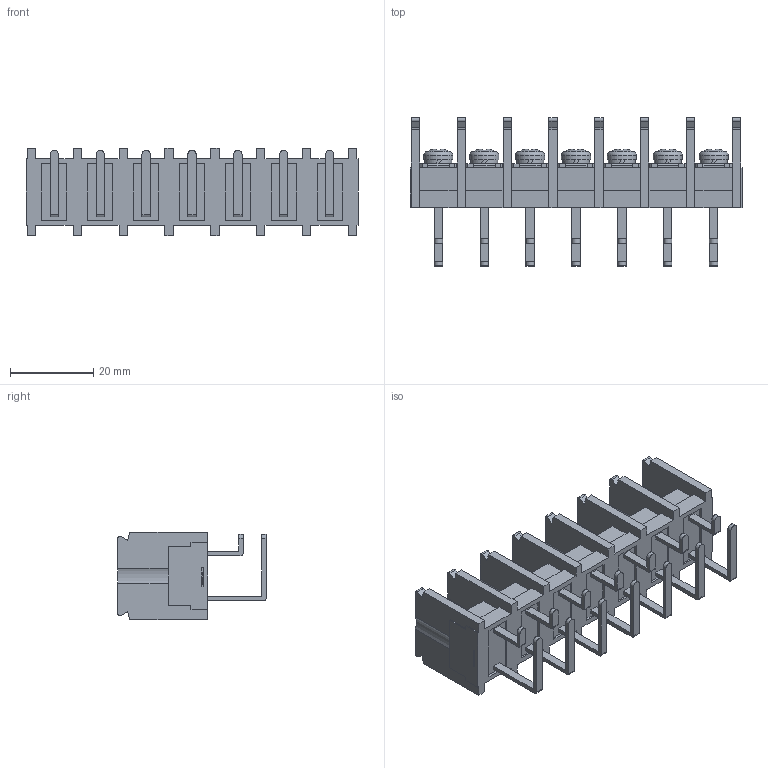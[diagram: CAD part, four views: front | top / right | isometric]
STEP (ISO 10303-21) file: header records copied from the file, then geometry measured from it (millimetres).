
FILE_DESCRIPTION(/* description */ ('Alibre Inc.'),/* implementation_level */ '2;1');
FILE_NAME(/* name */ 'export0',/* time_stamp */ '2015-12-02T12:52:36+09:00',/* author */ (''),/* organization */ (''),/* preprocessor_version */ 'ST-DEVELOPER v14',/* originating_system */ 'Alibre',/* authorisation */ '');
FILE_SCHEMA (('CONFIG_CONTROL_DESIGN'));
Length unit declared in the file: centimetre
Products named in the file (1): ID_1
Bounding box: 79.6 x 35.5 x 21 mm (x, y, z)
Volume: 14940.1 mm3; surface area: 16885.8 mm2
Topology: 1 solids, 17 shells, 1159 faces, 3154 edges, 2098 vertices
Faces by surface type: plane 904, bspline 104, cylinder 102, cone 35, sphere 7, torus 7
Full cylindrical faces by diameter (mm): 4 x7, 6.5 x7, 7 x7
Entity records: 34949 total; most frequent: CARTESIAN_POINT 7405, ORIENTED_EDGE 6252, DIRECTION 4331, EDGE_CURVE 3126, VECTOR 2401, LINE 2401, VERTEX_POINT 2098, AXIS2_PLACEMENT_3D 1378
